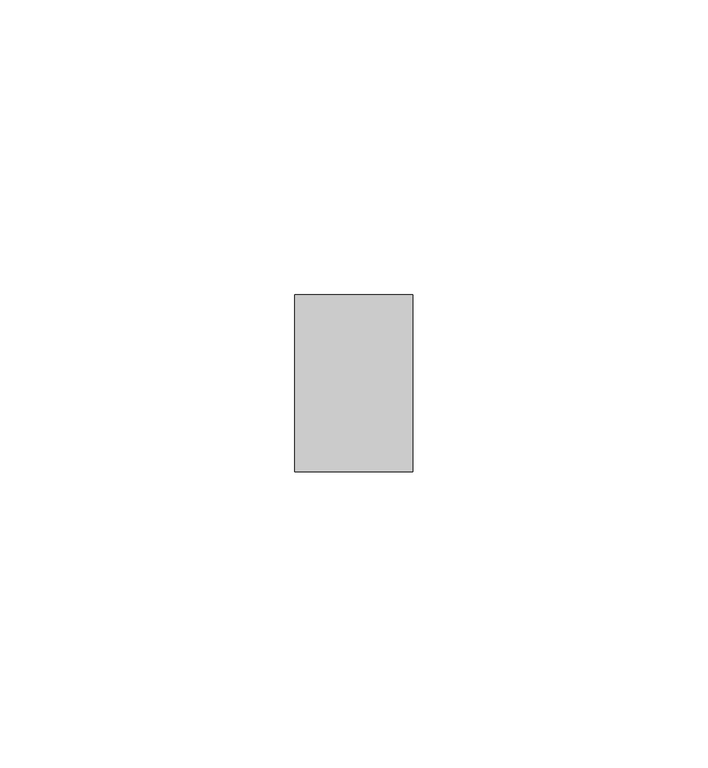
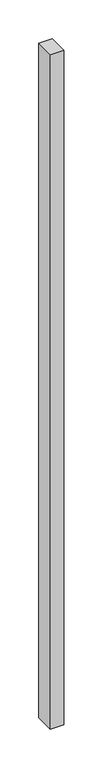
"""IFC4 building model written with IfcOpenShell, lengths in millimetres: member geometry, Прямоугольный импост : Квадрат 10 мм - Зазор между навесными плитами."""

from ifc_helpers import new_model, si_unit, frame, origin, place, context, project, spatial, polyline, outline, extrude, source, transform, mapped, element, save


def member_bb7273e4(model_context):
    return source(origin(), model_context, "Body", "SweptSolid", [
        extrude(outline(polyline([(10.0, 15.0), (10.0, -15.0), (-10.0, -15.0), (-10.0, 15.0), (10.0, 15.0)])), frame((0.0, 0.0, -1061.0), z_axis=(0.0, 0.0, 1.0), x_axis=(1.0, 0.0, 0.0)), (0.0, 0.0, 1.0), 1061.0),
    ])


if __name__ == "__main__":
    model = new_model("IFC4")
    model_context = context("Model", 3, world=origin())
    ifc_project = project(units=[si_unit("LENGTHUNIT", "METRE", prefix="MILLI")], contexts=[model_context])
    site = spatial("IfcSite", under=ifc_project)
    building = spatial("IfcBuilding", under=site)
    placement = place(None, origin())
    member_shape = member_bb7273e4(model_context)
    element("IfcMember", 1, ObjectType="Прямоугольный импост : Квадрат 10 мм - Зазор между навесными плитами", at=placement, inside=building, context=model_context, shape_type="MappedRepresentation", body=[
        mapped(member_shape, transform((0.0, 0.0, 0.0), x_axis=(1.0, 0.0, 0.0), y_axis=(0.0, 1.0, 0.0), z_axis=(0.0, 0.0, 1.0))),
    ])
    save(model, "model.ifc")
